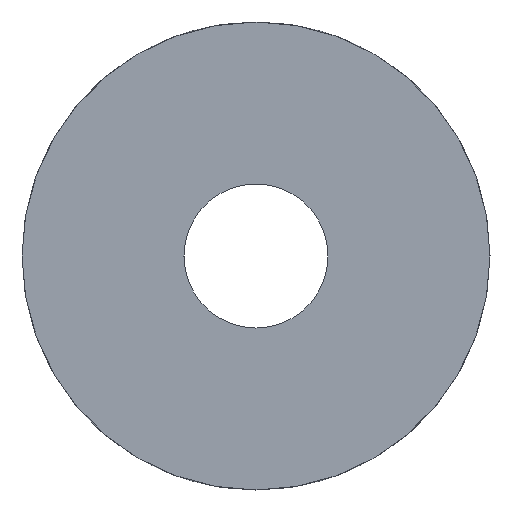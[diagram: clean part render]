
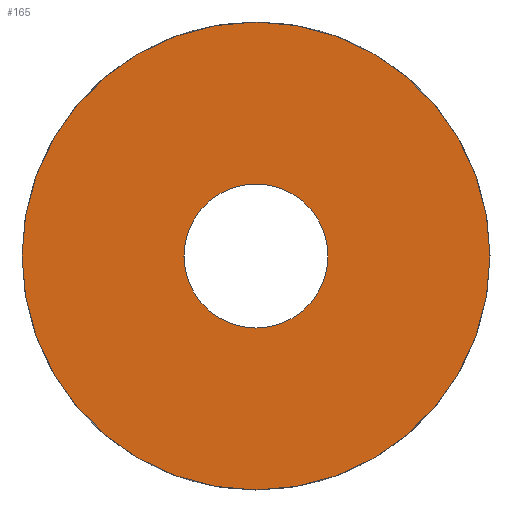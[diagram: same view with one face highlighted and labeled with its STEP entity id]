
A CAD part, left-side view. The second image highlights one B-rep face of the part: STEP entity #165.
In plain terms, the highlighted planar face has unit normal (-1, 0, 0).
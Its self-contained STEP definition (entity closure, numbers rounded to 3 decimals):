
#2 = VERTEX_POINT ( 'NONE', #385 ) ;
#28 = EDGE_CURVE ( 'NONE', #2, #29, #397, .T. ) ;
#29 = VERTEX_POINT ( 'NONE', #392 ) ;
#41 = VERTEX_POINT ( 'NONE', #352 ) ;
#43 = EDGE_CURVE ( 'NONE', #44, #41, #351, .T. ) ;
#44 = VERTEX_POINT ( 'NONE', #346 ) ;
#159 = EDGE_LOOP ( 'NONE', ( #166, #167 ) ) ;
#160 = EDGE_LOOP ( 'NONE', ( #162, #161 ) ) ;
#161 = ORIENTED_EDGE ( 'NONE', *, *, #28, .F. ) ;
#162 = ORIENTED_EDGE ( 'NONE', *, *, #163, .F. ) ;
#163 = EDGE_CURVE ( 'NONE', #29, #2, #608, .T. ) ;
#165 = ADVANCED_FACE ( 'NONE', ( #599, #598 ), #597, .F. ) ;
#166 = ORIENTED_EDGE ( 'NONE', *, *, #43, .T. ) ;
#167 = ORIENTED_EDGE ( 'NONE', *, *, #168, .T. ) ;
#168 = EDGE_CURVE ( 'NONE', #41, #44, #592, .T. ) ;
#346 = CARTESIAN_POINT ( 'NONE',  ( 0., 0., 2. ) ) ;
#347 = DIRECTION ( 'NONE',  ( 0., 0., -1. ) ) ;
#348 = DIRECTION ( 'NONE',  ( 1., 0., 0. ) ) ;
#349 = CARTESIAN_POINT ( 'NONE',  ( 0., 0., 0. ) ) ;
#350 = AXIS2_PLACEMENT_3D ( 'NONE', #349, #348, #347 ) ;
#351 = CIRCLE ( 'NONE', #350, 2. ) ;
#352 = CARTESIAN_POINT ( 'NONE',  ( 0., 0., -2. ) ) ;
#385 = CARTESIAN_POINT ( 'NONE',  ( 0., 0., -6.5 ) ) ;
#392 = CARTESIAN_POINT ( 'NONE',  ( 0., 0., 6.5 ) ) ;
#393 = DIRECTION ( 'NONE',  ( 0., 0., -1. ) ) ;
#394 = DIRECTION ( 'NONE',  ( 1., 0., 0. ) ) ;
#395 = CARTESIAN_POINT ( 'NONE',  ( 0., 0., 0. ) ) ;
#396 = AXIS2_PLACEMENT_3D ( 'NONE', #395, #394, #393 ) ;
#397 = CIRCLE ( 'NONE', #396, 6.5 ) ;
#588 = DIRECTION ( 'NONE',  ( 0., 0., -1. ) ) ;
#589 = DIRECTION ( 'NONE',  ( 1., 0., 0. ) ) ;
#590 = CARTESIAN_POINT ( 'NONE',  ( 0., 0., 0. ) ) ;
#591 = AXIS2_PLACEMENT_3D ( 'NONE', #590, #589, #588 ) ;
#592 = CIRCLE ( 'NONE', #591, 2. ) ;
#593 = DIRECTION ( 'NONE',  ( 0., 0., -1. ) ) ;
#594 = DIRECTION ( 'NONE',  ( 1., 0., 0. ) ) ;
#595 = CARTESIAN_POINT ( 'NONE',  ( 0., 0., 0. ) ) ;
#596 = AXIS2_PLACEMENT_3D ( 'NONE', #595, #594, #593 ) ;
#597 = PLANE ( 'NONE',  #596 ) ;
#598 = FACE_BOUND ( 'NONE', #159, .T. ) ;
#599 = FACE_OUTER_BOUND ( 'NONE', #160, .T. ) ;
#604 = DIRECTION ( 'NONE',  ( 0., 0., -1. ) ) ;
#605 = DIRECTION ( 'NONE',  ( 1., 0., 0. ) ) ;
#606 = CARTESIAN_POINT ( 'NONE',  ( 0., 0., 0. ) ) ;
#607 = AXIS2_PLACEMENT_3D ( 'NONE', #606, #605, #604 ) ;
#608 = CIRCLE ( 'NONE', #607, 6.5 ) ;
